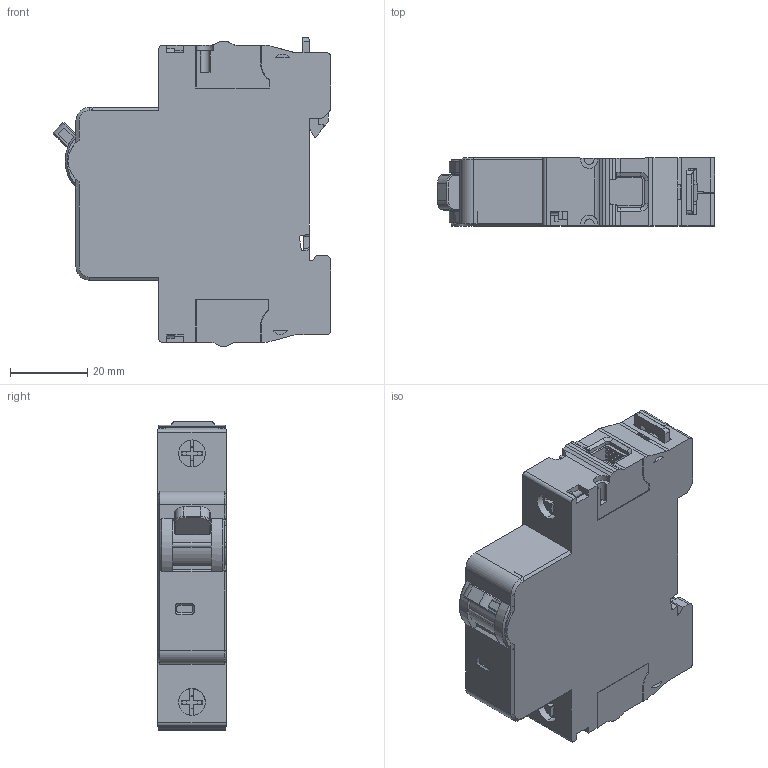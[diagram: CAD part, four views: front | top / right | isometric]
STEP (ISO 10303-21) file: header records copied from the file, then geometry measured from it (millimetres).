
FILE_DESCRIPTION((''),'2;1');
FILE_NAME('2255007900_ASM_SW0001','2019-10-15T',('gang.wang'),(''),'PRO/ENGINEER BY PARAMETRIC TECHNOLOGY CORPORATION, 2015440','PRO/ENGINEER BY PARAMETRIC TECHNOLOGY CORPORATION, 2015440','');
FILE_SCHEMA(('CONFIG_CONTROL_DESIGN'));
Length unit declared in the file: millimetre
Products named in the file (1): 2255007900_ASM_SW0001
Bounding box: 71.86 x 17.7 x 79.9 mm (x, y, z)
Volume: 66504.5 mm3; surface area: 21496.9 mm2
Topology: 1 solids, 4 shells, 1740 faces, 4951 edges, 3258 vertices
Faces by surface type: plane 1167, cylinder 332, extrusion 164, cone 53, torus 10, sphere 8, bspline 6
Entity records: 57715 total; most frequent: CARTESIAN_POINT 12568, ORIENTED_EDGE 9886, DIRECTION 8543, EDGE_CURVE 4943, VECTOR 3889, LINE 3725, VERTEX_POINT 3258, AXIS2_PLACEMENT_3D 2327
